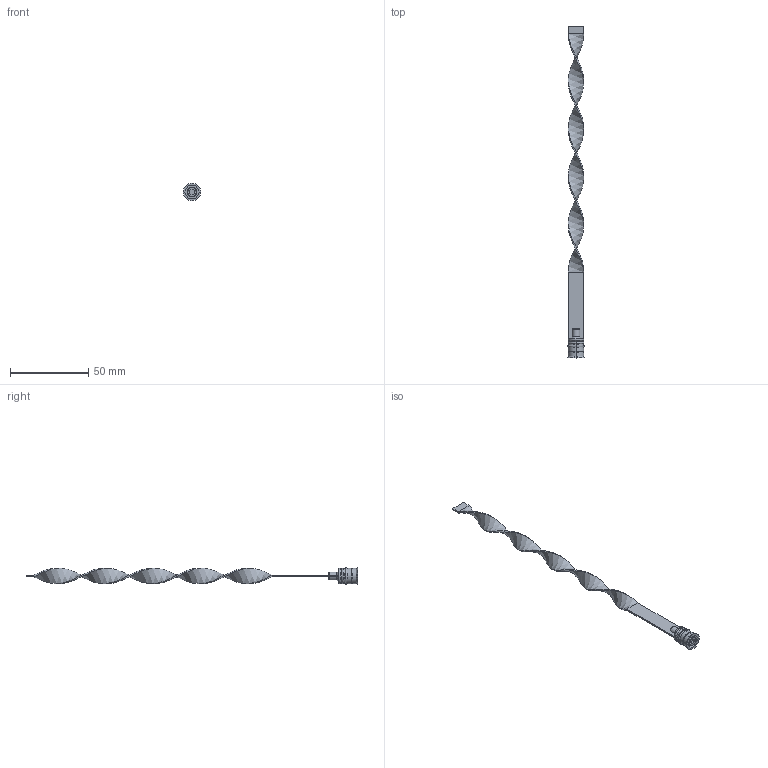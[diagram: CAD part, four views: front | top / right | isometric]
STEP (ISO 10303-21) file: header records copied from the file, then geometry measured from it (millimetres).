
FILE_DESCRIPTION (( 'STEP AP203' ), '1' );
FILE_NAME ('RLS-10Fx200.STEP', '2015-12-04T14:37:06', ( 'Balzi' ), ( '' ), 'SwSTEP 2.0', 'SolidWorks 2015', '' );
FILE_SCHEMA (( 'CONFIG_CONTROL_DESIGN' ));
Length unit declared in the file: millimetre
Products named in the file (1): RLS-10Fx200
Bounding box: 11.3 x 212.5 x 11.3 mm (x, y, z)
Volume: 2885.5 mm3; surface area: 5344.3 mm2
Topology: 1 solids, 1 shells, 80 faces, 187 edges, 113 vertices
Faces by surface type: plane 34, cylinder 17, cone 17, torus 8, bspline 4
Entity records: 4017 total; most frequent: CARTESIAN_POINT 2127, DIRECTION 386, ORIENTED_EDGE 374, EDGE_CURVE 187, AXIS2_PLACEMENT_3D 144, VERTEX_POINT 113, VECTOR 98, LINE 98
